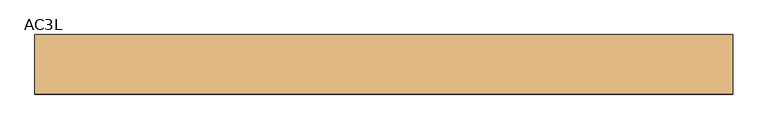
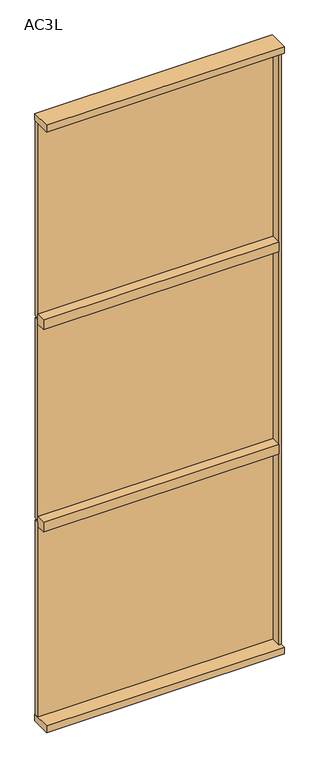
"""IFC4 building model written with IfcOpenShell, lengths in millimetres: door geometry, Mobiliário_Mobiliário de Escritório_Painel Lambri - AC3L (Complementar)_Marelli : AC3L."""

from ifc_helpers import new_model, si_unit, frame, origin, origin_with_axes, place, context, project, spatial, polyline, outline, extrude, source, transform, mapped, element, save


def ac3l_e11f1b5f(model_context):
    return source(origin(), model_context, "Body", "SweptSolid", [
        extrude(outline(polyline([(500.0, 42.5), (500.0, -42.5), (-500.0, -42.5), (-500.0, 42.5), (500.0, 42.5)])), origin_with_axes(), (0.0, 0.0, 1.0), 30.0),
        extrude(outline(polyline([(490.0, 39.5), (490.0, 21.5), (-500.0, 21.5), (-500.0, 39.5), (490.0, 39.5)])), frame((0.0, 0.0, 30.0), z_axis=(0.0, 0.0, 1.0), x_axis=(1.0, 0.0, 0.0)), (0.0, 0.0, 1.0), 865.0),
        extrude(outline(polyline([(490.0, 21.5), (490.0, -21.5), (-500.0, -21.5), (-500.0, 21.5), (490.0, 21.5)])), frame((0.0, 0.0, 878.5), z_axis=(0.0, 0.0, 1.0), x_axis=(1.0, 0.0, 0.0)), (0.0, 0.0, 1.0), 43.0),
        extrude(outline(polyline([(500.0, 42.5), (500.0, -42.5), (-500.0, -42.5), (-500.0, 42.5), (500.0, 42.5)])), frame((0.0, 0.0, 2670.0), z_axis=(0.0, 0.0, 1.0), x_axis=(1.0, 0.0, 0.0)), (0.0, 0.0, 1.0), 30.0),
        extrude(outline(polyline([(490.0, 21.5), (490.0, -21.5), (-500.0, -21.5), (-500.0, 21.5), (490.0, 21.5)])), frame((0.0, 0.0, 1778.5), z_axis=(0.0, 0.0, 1.0), x_axis=(1.0, 0.0, 0.0)), (0.0, 0.0, 1.0), 43.0),
        extrude(outline(polyline([(500.0, -21.5), (490.0, -21.5), (490.0, 21.5), (500.0, 21.5), (500.0, -21.5)])), frame((0.0, 0.0, 30.0), z_axis=(0.0, 0.0, 1.0), x_axis=(1.0, 0.0, 0.0)), (0.0, 0.0, 1.0), 2640.0),
        extrude(outline(polyline([(490.0, 39.5), (490.0, 21.5), (-500.0, 21.5), (-500.0, 39.5), (490.0, 39.5)])), frame((0.0, 0.0, 905.0), z_axis=(0.0, 0.0, 1.0), x_axis=(1.0, 0.0, 0.0)), (0.0, 0.0, 1.0), 890.0),
        extrude(outline(polyline([(500.0, 39.5), (500.0, 21.5), (-500.0, 21.5), (-500.0, 39.5), (500.0, 39.5)])), frame((0.0, 0.0, 1805.0), z_axis=(0.0, 0.0, 1.0), x_axis=(1.0, 0.0, 0.0)), (0.0, 0.0, 1.0), 865.0),
    ])


if __name__ == "__main__":
    model = new_model("IFC4")
    model_context = context("Model", 3, world=origin())
    ifc_project = project(units=[si_unit("LENGTHUNIT", "METRE", prefix="MILLI")], contexts=[model_context])
    site = spatial("IfcSite", under=ifc_project)
    building = spatial("IfcBuilding", under=site)
    placement = place(None, origin())
    ac3l_shape = ac3l_e11f1b5f(model_context)
    element("IfcDoor", 1, ObjectType="Mobiliário_Mobiliário de Escritório_Painel Lambri - AC3L (Complementar)_Marelli : AC3L", at=placement, inside=building, context=model_context, shape_type="MappedRepresentation", body=[
        mapped(ac3l_shape, transform((0.0, 0.0, 0.0), x_axis=(1.0, 0.0, 0.0), y_axis=(0.0, 1.0, 0.0), z_axis=(0.0, 0.0, 1.0))),
    ])
    save(model, "model.ifc")
